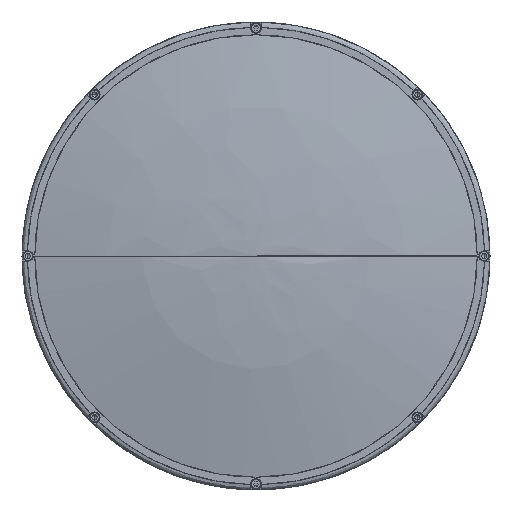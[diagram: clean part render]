
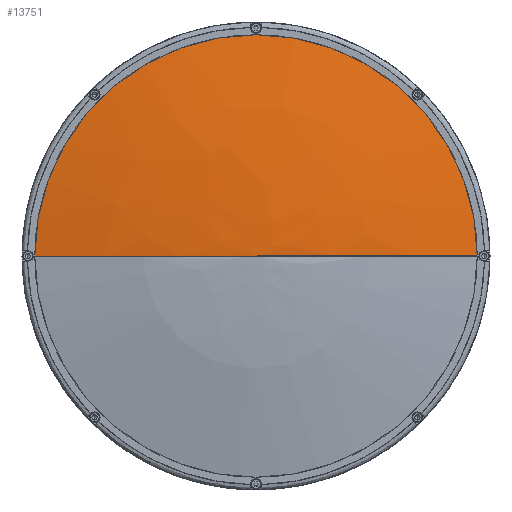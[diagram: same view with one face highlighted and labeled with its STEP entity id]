
A CAD part, left-side view. The second image highlights one B-rep face of the part: STEP entity #13751.
In plain terms, the highlighted face is a revolution surface.
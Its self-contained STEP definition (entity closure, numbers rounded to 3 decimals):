
#13751 = ADVANCED_FACE('',(#13752),#13767,.T.);
#13752 = FACE_BOUND('',#13753,.T.);
#13753 = EDGE_LOOP('',(#13754,#13781,#13797));
#13754 = ORIENTED_EDGE('',*,*,#13755,.F.);
#13755 = EDGE_CURVE('',#13756,#13758,#13760,.T.);
#13756 = VERTEX_POINT('',#13757);
#13757 = CARTESIAN_POINT('',(-547.362,124.9,
    0.));
#13758 = VERTEX_POINT('',#13759);
#13759 = CARTESIAN_POINT('',(-560.373,0.,0.));
#13760 = SURFACE_CURVE('',#13761,(#13766),.PCURVE_S1.);
#13761 = CIRCLE('',#13762,606.);
#13762 = AXIS2_PLACEMENT_3D('',#13763,#13764,#13765);
#13763 = CARTESIAN_POINT('',(45.627,0.,0.));
#13764 = DIRECTION('',(0.,0.,1.));
#13765 = DIRECTION('',(1.,0.,-0.));
#13766 = PCURVE('',#13767,#13776);
#13767 = SURFACE_OF_REVOLUTION('',#13768,#13773);
#13768 = CIRCLE('',#13769,606.);
#13769 = AXIS2_PLACEMENT_3D('',#13770,#13771,#13772);
#13770 = CARTESIAN_POINT('',(45.627,0.,0.));
#13771 = DIRECTION('',(-0.,0.,1.));
#13772 = DIRECTION('',(1.,0.,0.));
#13773 = AXIS1_PLACEMENT('',#13774,#13775);
#13774 = CARTESIAN_POINT('',(45.627,0.,0.));
#13775 = DIRECTION('',(1.,0.,0.));
#13776 = DEFINITIONAL_REPRESENTATION('',(#13777),#13780);
#13777 = B_SPLINE_CURVE_WITH_KNOTS('',1,(#13778,#13779),.UNSPECIFIED.,
  .F.,.F.,(2,2),(2.934,3.142),.PIECEWISE_BEZIER_KNOTS.);
#13778 = CARTESIAN_POINT('',(0.,2.934));
#13779 = CARTESIAN_POINT('',(0.,3.142));
#13780 = ( GEOMETRIC_REPRESENTATION_CONTEXT(2) 
PARAMETRIC_REPRESENTATION_CONTEXT() REPRESENTATION_CONTEXT('',''
  ) );
#13781 = ORIENTED_EDGE('',*,*,#13782,.F.);
#13782 = EDGE_CURVE('',#13783,#13756,#13785,.T.);
#13783 = VERTEX_POINT('',#13784);
#13784 = CARTESIAN_POINT('',(-547.362,-124.9,
    0.));
#13785 = SURFACE_CURVE('',#13786,(#13791),.PCURVE_S1.);
#13786 = CIRCLE('',#13787,124.9);
#13787 = AXIS2_PLACEMENT_3D('',#13788,#13789,#13790);
#13788 = CARTESIAN_POINT('',(-547.362,0.,
    0.));
#13789 = DIRECTION('',(-1.,0.,0.));
#13790 = DIRECTION('',(0.,-1.,0.));
#13791 = PCURVE('',#13767,#13792);
#13792 = DEFINITIONAL_REPRESENTATION('',(#13793),#13796);
#13793 = B_SPLINE_CURVE_WITH_KNOTS('',1,(#13794,#13795),.UNSPECIFIED.,
  .F.,.F.,(2,2),(0.,3.142),
  .PIECEWISE_BEZIER_KNOTS.);
#13794 = CARTESIAN_POINT('',(3.142,2.934));
#13795 = CARTESIAN_POINT('',(0.,2.934));
#13796 = ( GEOMETRIC_REPRESENTATION_CONTEXT(2) 
PARAMETRIC_REPRESENTATION_CONTEXT() REPRESENTATION_CONTEXT('',''
  ) );
#13797 = ORIENTED_EDGE('',*,*,#13798,.F.);
#13798 = EDGE_CURVE('',#13758,#13783,#13799,.T.);
#13799 = SURFACE_CURVE('',#13800,(#13805),.PCURVE_S1.);
#13800 = CIRCLE('',#13801,606.);
#13801 = AXIS2_PLACEMENT_3D('',#13802,#13803,#13804);
#13802 = CARTESIAN_POINT('',(45.627,0.,0.));
#13803 = DIRECTION('',(0.,0.,1.));
#13804 = DIRECTION('',(1.,0.,-0.));
#13805 = PCURVE('',#13767,#13806);
#13806 = DEFINITIONAL_REPRESENTATION('',(#13807),#13810);
#13807 = B_SPLINE_CURVE_WITH_KNOTS('',1,(#13808,#13809),.UNSPECIFIED.,
  .F.,.F.,(2,2),(3.142,3.349),
  .PIECEWISE_BEZIER_KNOTS.);
#13808 = CARTESIAN_POINT('',(3.142,3.142));
#13809 = CARTESIAN_POINT('',(3.142,2.934));
#13810 = ( GEOMETRIC_REPRESENTATION_CONTEXT(2) 
PARAMETRIC_REPRESENTATION_CONTEXT() REPRESENTATION_CONTEXT('',''
  ) );
